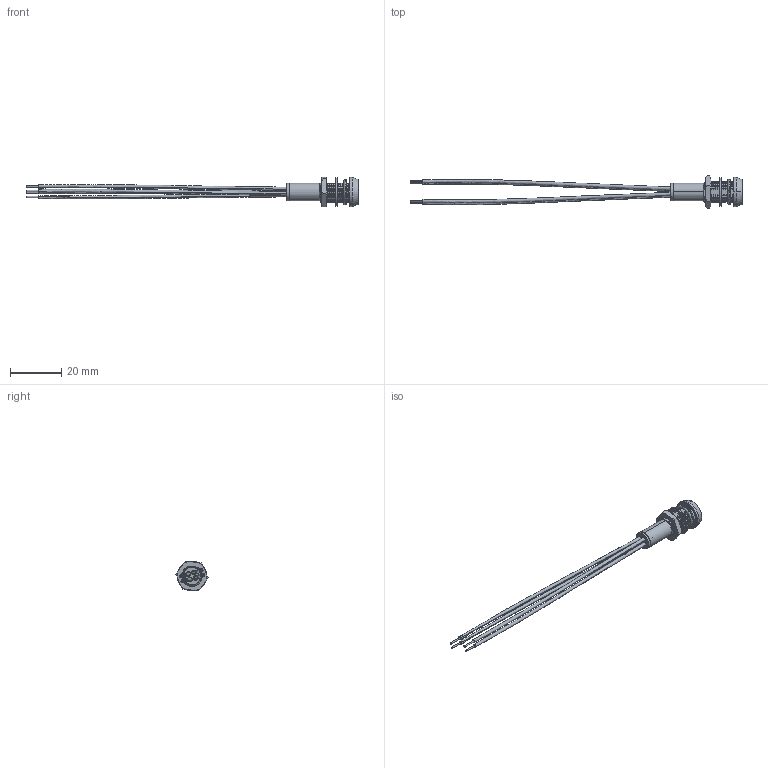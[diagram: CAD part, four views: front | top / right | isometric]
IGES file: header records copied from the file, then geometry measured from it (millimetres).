
Start section: SolidWorks IGES file using analytic representation for surfaces
Global section: file name: G:\Marl\DESIGN\Paul Robson\STEP-IGES FILES\525 Series\525 RGB.IGS; native system: SolidWorks 2016; preprocessor: SolidWorks 2016; author: Paulr; date: 160804.154052; units: millimetre
Bounding box: 130 x 12.64 x 11.59 mm (x, y, z)
Surface area: 4216.4 mm2 (no closed solid volume)
Topology: 0 solids, 0 shells, 549 faces, 5515 edges, 5515 vertices
Faces by surface type: bspline 386, revolution 163
